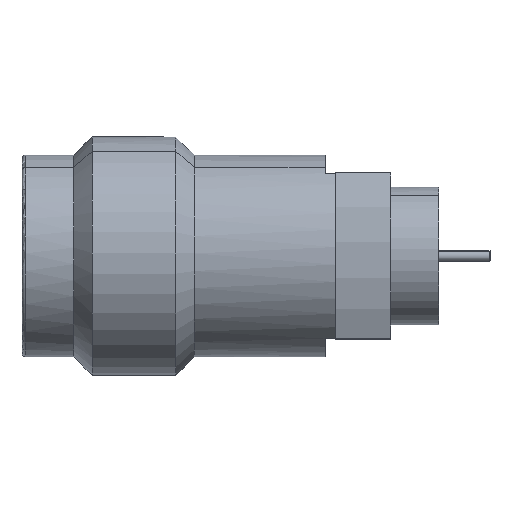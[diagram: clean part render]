
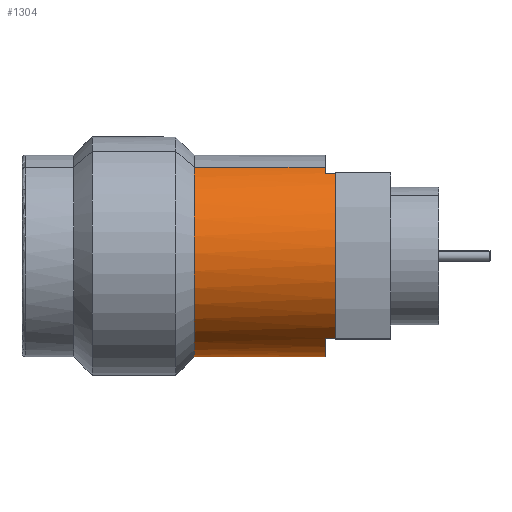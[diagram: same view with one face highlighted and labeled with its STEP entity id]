
A CAD part, top view. The second image highlights one B-rep face of the part: STEP entity #1304.
In plain terms, the highlighted cylindrical face has radius 2.925 mm (diameter 5.85 mm), a partial arc.
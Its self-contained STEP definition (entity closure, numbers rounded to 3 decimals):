
#1023=CARTESIAN_POINT('Axis2P3D Location',(9.789,0.,0.)) ;
#1163=CARTESIAN_POINT('Vertex',(5.,2.567,1.402)) ;
#1170=CARTESIAN_POINT('Vertex',(5.,-2.567,-1.402)) ;
#1190=CARTESIAN_POINT('Axis2P3D Location',(5.,0.,0.)) ;
#1222=CARTESIAN_POINT('Vertex',(8.8,-2.567,-1.402)) ;
#1225=CARTESIAN_POINT('Line Origine',(9.789,-2.567,-1.402)) ;
#1230=CARTESIAN_POINT('Line Origine',(9.789,2.567,1.402)) ;
#1234=CARTESIAN_POINT('Vertex',(8.8,2.567,1.402)) ;
#1260=CARTESIAN_POINT('Axis2P3D Location',(9.1,0.,0.)) ;
#1264=CARTESIAN_POINT('Vertex',(9.1,2.4,1.672)) ;
#1266=CARTESIAN_POINT('Vertex',(9.1,-2.4,1.672)) ;
#1269=CARTESIAN_POINT('Line Origine',(9.789,2.4,1.672)) ;
#1273=CARTESIAN_POINT('Vertex',(8.8,2.4,1.672)) ;
#1277=CARTESIAN_POINT('Control Point',(8.8,2.567,1.402)) ;
#1278=CARTESIAN_POINT('Control Point',(8.8,2.516,1.495)) ;
#1279=CARTESIAN_POINT('Control Point',(8.8,2.46,1.585)) ;
#1280=CARTESIAN_POINT('Control Point',(8.8,2.4,1.672)) ;
#1282=CARTESIAN_POINT('Axis2P3D Location',(8.8,0.,0.)) ;
#1286=CARTESIAN_POINT('Vertex',(8.8,-2.4,1.672)) ;
#1289=CARTESIAN_POINT('Line Origine',(9.789,-2.4,1.672)) ;
#1024=DIRECTION('Axis2P3D Direction',(1.,0.,0.)) ;
#1025=DIRECTION('Axis2P3D XDirection',(0.,0.878,0.479)) ;
#1191=DIRECTION('Axis2P3D Direction',(-1.,0.,0.)) ;
#1226=DIRECTION('Vector Direction',(1.,0.,0.)) ;
#1231=DIRECTION('Vector Direction',(1.,0.,0.)) ;
#1261=DIRECTION('Axis2P3D Direction',(1.,0.,0.)) ;
#1270=DIRECTION('Vector Direction',(1.,0.,0.)) ;
#1283=DIRECTION('Axis2P3D Direction',(1.,0.,0.)) ;
#1290=DIRECTION('Vector Direction',(1.,0.,0.)) ;
#1026=AXIS2_PLACEMENT_3D('Cylinder Axis2P3D',#1023,#1024,#1025) ;
#1192=AXIS2_PLACEMENT_3D('Circle Axis2P3D',#1190,#1191,$) ;
#1262=AXIS2_PLACEMENT_3D('Circle Axis2P3D',#1260,#1261,$) ;
#1284=AXIS2_PLACEMENT_3D('Circle Axis2P3D',#1282,#1283,$) ;
#1295=ORIENTED_EDGE('',*,*,#1268,.F.) ;
#1296=ORIENTED_EDGE('',*,*,#1275,.T.) ;
#1297=ORIENTED_EDGE('',*,*,#1281,.F.) ;
#1298=ORIENTED_EDGE('',*,*,#1236,.F.) ;
#1299=ORIENTED_EDGE('',*,*,#1194,.T.) ;
#1300=ORIENTED_EDGE('',*,*,#1229,.T.) ;
#1301=ORIENTED_EDGE('',*,*,#1288,.F.) ;
#1302=ORIENTED_EDGE('',*,*,#1293,.F.) ;
#1227=VECTOR('Line Direction',#1226,1.) ;
#1232=VECTOR('Line Direction',#1231,1.) ;
#1271=VECTOR('Line Direction',#1270,1.) ;
#1291=VECTOR('Line Direction',#1290,1.) ;
#1304=ADVANCED_FACE('',(#1303),#1027,.T.) ;
#1276=B_SPLINE_CURVE_WITH_KNOTS('',3,(#1277,#1278,#1279,#1280),.UNSPECIFIED.,.F.,.U.,(4,4),(-0.159,0.159),.UNSPECIFIED.) ;
#1193=CIRCLE('generated circle',#1192,2.925) ;
#1263=CIRCLE('generated circle',#1262,2.925) ;
#1285=CIRCLE('generated circle',#1284,2.925) ;
#1027=CYLINDRICAL_SURFACE('generated cylinder',#1026,2.925) ;
#1194=EDGE_CURVE('',#1164,#1171,#1193,.F.) ;
#1229=EDGE_CURVE('',#1171,#1223,#1228,.T.) ;
#1236=EDGE_CURVE('',#1164,#1235,#1233,.T.) ;
#1268=EDGE_CURVE('',#1265,#1267,#1263,.T.) ;
#1275=EDGE_CURVE('',#1265,#1274,#1272,.F.) ;
#1281=EDGE_CURVE('',#1235,#1274,#1276,.T.) ;
#1288=EDGE_CURVE('',#1287,#1223,#1285,.T.) ;
#1293=EDGE_CURVE('',#1267,#1287,#1292,.F.) ;
#1294=EDGE_LOOP('',(#1295,#1296,#1297,#1298,#1299,#1300,#1301,#1302)) ;
#1303=FACE_OUTER_BOUND('',#1294,.T.) ;
#1228=LINE('Line',#1225,#1227) ;
#1233=LINE('Line',#1230,#1232) ;
#1272=LINE('Line',#1269,#1271) ;
#1292=LINE('Line',#1289,#1291) ;
#1164=VERTEX_POINT('',#1163) ;
#1171=VERTEX_POINT('',#1170) ;
#1223=VERTEX_POINT('',#1222) ;
#1235=VERTEX_POINT('',#1234) ;
#1265=VERTEX_POINT('',#1264) ;
#1267=VERTEX_POINT('',#1266) ;
#1274=VERTEX_POINT('',#1273) ;
#1287=VERTEX_POINT('',#1286) ;
